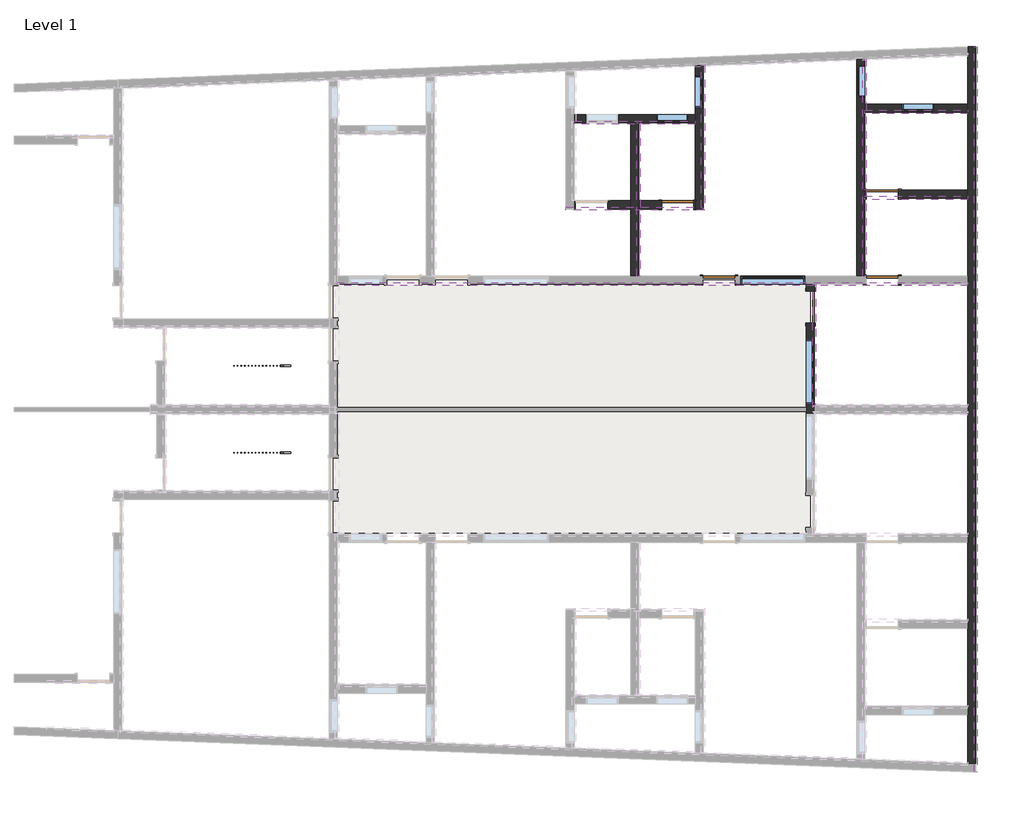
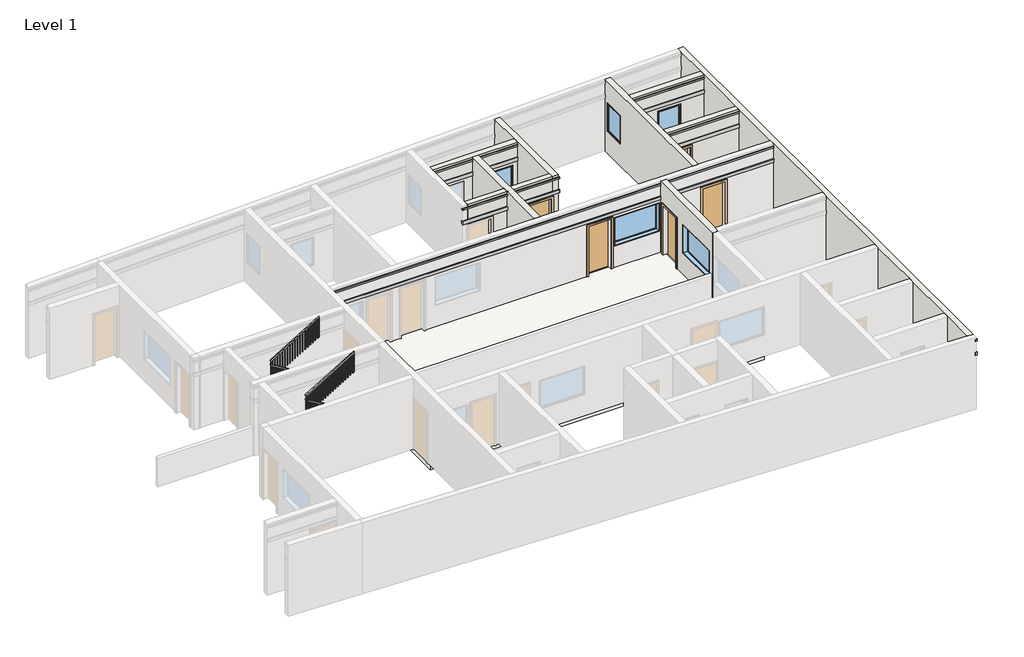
# One storey, part 5 of 5: 20 proxies, 9 walls, 6 windows, 5 doors, 2 railings, 1 slab.
"""IFC4 building model written with IfcOpenShell, lengths in millimetres."""

from ifc_helpers import new_model, si_unit, frame, origin, place, context, project, spatial, polyline, outline, extrude, faceted_brep, transform, mapped, element, save
from components import door_0ca8825f, door_a90ba1ad, handrail_rectangular_be6d6456, handrail_rectangular_08b6a308, window_c1f32544, fixed_6_x4_abaca003

model = new_model("IFC4")

# Units and contexts
model_context = context("Model", 3, world=origin())
ifc_project = project(units=[si_unit("LENGTHUNIT", "METRE", prefix="MILLI")], contexts=[model_context])

# Site, building, storey
site = spatial("IfcSite", under=ifc_project)
building = spatial("IfcBuilding", under=site)
storey = spatial("IfcBuildingStorey", under=building, Name="Level 1", Elevation=0.0)

# Proxies
placement = place(None, origin())
element("IfcBuildingElementProxy", 1, Name="Reveals", at=placement, inside=storey, context=model_context, shape_type="SweptSolid", body=[
    extrude(outline(polyline([(10312.4857699, -6819.3615033), (10220.4107699, -6815.7808089), (10220.4107699, 13730.0286536), (10312.4857699, 13733.6093481), (10312.4857699, -6819.3615033)])), frame((0.0, 0.0, 2895.6), z_axis=(0.0, 0.0, 1.0), x_axis=(1.0, 0.0, 0.0)), (0.0, 0.0, 1.0), 67.7333333),
])
element("IfcBuildingElementProxy", 2, Name="Reveals", at=placement, inside=storey, context=model_context, shape_type="SweptSolid", body=[
    extrude(outline(polyline([(-7813.5892301, 6959.1489224), (-7813.5892301, 7051.2239224), (10042.6107699, 7051.2239224), (10042.6107699, 6959.1489224), (-7813.5892301, 6959.1489224)])), frame((0.0, 0.0, 2895.6), z_axis=(0.0, 0.0, 1.0), x_axis=(1.0, 0.0, 0.0)), (0.0, 0.0, 1.0), 67.7333333),
])
element("IfcBuildingElementProxy", 3, Name="Reveals", at=placement, inside=storey, context=model_context, shape_type="SweptSolid", body=[
    extrude(outline(polyline([(762.0857699, 7229.0239224), (670.0107699, 7229.0239224), (670.0107699, 11572.4239224), (762.0857699, 11572.4239224), (762.0857699, 7229.0239224)])), frame((0.0, 0.0, 2895.6), z_axis=(0.0, 0.0, 1.0), x_axis=(1.0, 0.0, 0.0)), (0.0, 0.0, 1.0), 67.7333333),
])
element("IfcBuildingElementProxy", 4, Name="Reveals", at=placement, inside=storey, context=model_context, shape_type="SweptSolid", body=[
    extrude(outline(polyline([(2590.8857699, 9092.7489224), (2498.8107699, 9184.8239224), (2498.8107699, 13202.9469689), (2590.8857699, 13202.9469689), (2590.8857699, 9092.7489224)])), frame((0.0, 0.0, 2895.6), z_axis=(0.0, 0.0, 1.0), x_axis=(1.0, 0.0, 0.0)), (0.0, 0.0, 1.0), 67.7333333),
])
element("IfcBuildingElementProxy", 5, Name="Reveals", at=placement, inside=storey, context=model_context, shape_type="SweptSolid", body=[
    extrude(outline(polyline([(7162.8857699, 7229.0239224), (7070.8107699, 7229.0239224), (7070.8107699, 13380.7469689), (7162.8857699, 13380.7469689), (7162.8857699, 7229.0239224)])), frame((0.0, 0.0, 2895.6), z_axis=(0.0, 0.0, 1.0), x_axis=(1.0, 0.0, 0.0)), (0.0, 0.0, 1.0), 67.7333333),
])
element("IfcBuildingElementProxy", 6, Name="Reveals", at=placement, inside=storey, context=model_context, shape_type="SweptSolid", body=[
    extrude(outline(polyline([(5740.4857699, 3612.6989224), (5648.4107699, 3520.6239224), (5648.4107699, 7000.4239224), (5740.4857699, 7000.4239224), (5740.4857699, 3612.6989224)])), frame((0.0, 0.0, 2895.6), z_axis=(0.0, 0.0, 1.0), x_axis=(1.0, 0.0, 0.0)), (0.0, 0.0, 1.0), 67.7333333),
])
element("IfcBuildingElementProxy", 7, Name="Reveals", at=placement, inside=storey, context=model_context, shape_type="SweptSolid", body=[
    extrude(outline(polyline([(-1107.9892301, 11531.1489224), (-1107.9892301, 11623.2239224), (2321.0107699, 11623.2239224), (2321.0107699, 11531.1489224), (-1107.9892301, 11531.1489224)])), frame((0.0, 0.0, 2895.6), z_axis=(0.0, 0.0, 1.0), x_axis=(1.0, 0.0, 0.0)), (0.0, 0.0, 1.0), 67.7333333),
])
element("IfcBuildingElementProxy", 8, Name="Reveals", at=placement, inside=storey, context=model_context, shape_type="SweptSolid", body=[
    extrude(outline(polyline([(7121.6107699, 9397.5489224), (7121.6107699, 9489.6239224), (10042.6107699, 9489.6239224), (10042.6107699, 9397.5489224), (7121.6107699, 9397.5489224)])), frame((0.0, 0.0, 2895.6), z_axis=(0.0, 0.0, 1.0), x_axis=(1.0, 0.0, 0.0)), (0.0, 0.0, 1.0), 67.7333333),
])
element("IfcBuildingElementProxy", 9, Name="Reveals", at=placement, inside=storey, context=model_context, shape_type="SweptSolid", body=[
    extrude(outline(polyline([(7121.6107699, 11835.9489224), (7121.6107699, 11928.0239224), (10042.6107699, 11928.0239224), (10042.6107699, 11835.9489224), (7121.6107699, 11835.9489224)])), frame((0.0, 0.0, 2895.6), z_axis=(0.0, 0.0, 1.0), x_axis=(1.0, 0.0, 0.0)), (0.0, 0.0, 1.0), 67.7333333),
])
element("IfcBuildingElementProxy", 10, Name="Reveals", at=placement, inside=storey, context=model_context, shape_type="SweptSolid", body=[
    extrude(outline(polyline([(-1336.5892301, 9092.7489224), (-1336.5892301, 9184.8239224), (2498.8107699, 9184.8239224), (2590.8857699, 9092.7489224), (-1336.5892301, 9092.7489224)])), frame((0.0, 0.0, 2895.6), z_axis=(0.0, 0.0, 1.0), x_axis=(1.0, 0.0, 0.0)), (0.0, 0.0, 1.0), 67.7333333),
])
element("IfcBuildingElementProxy", 11, Name="Reveals", at=placement, inside=storey, context=model_context, shape_type="SweptSolid", body=[
    extrude(outline(polyline([(10312.4857699, -6819.3615033), (10220.4107699, -6815.7808089), (10220.4107699, 13730.0286536), (10312.4857699, 13733.6093481), (10312.4857699, -6819.3615033)])), frame((0.0, 0.0, 2286.0), z_axis=(0.0, 0.0, 1.0), x_axis=(1.0, 0.0, 0.0)), (0.0, 0.0, 1.0), 135.4666667),
])
element("IfcBuildingElementProxy", 12, Name="Reveals", at=placement, inside=storey, context=model_context, shape_type="SweptSolid", body=[
    extrude(outline(polyline([(-7813.5892301, 6959.1489224), (-7813.5892301, 7051.2239224), (10042.6107699, 7051.2239224), (10042.6107699, 6959.1489224), (-7813.5892301, 6959.1489224)])), frame((0.0, 0.0, 2286.0), z_axis=(0.0, 0.0, 1.0), x_axis=(1.0, 0.0, 0.0)), (0.0, 0.0, 1.0), 135.4666667),
])
element("IfcBuildingElementProxy", 13, Name="Reveals", at=placement, inside=storey, context=model_context, shape_type="SweptSolid", body=[
    extrude(outline(polyline([(762.0857699, 7229.0239224), (670.0107699, 7229.0239224), (670.0107699, 11572.4239224), (762.0857699, 11572.4239224), (762.0857699, 7229.0239224)])), frame((0.0, 0.0, 2286.0), z_axis=(0.0, 0.0, 1.0), x_axis=(1.0, 0.0, 0.0)), (0.0, 0.0, 1.0), 135.4666667),
])
element("IfcBuildingElementProxy", 14, Name="Reveals", at=placement, inside=storey, context=model_context, shape_type="SweptSolid", body=[
    extrude(outline(polyline([(2590.8857699, 9092.7489224), (2498.8107699, 9184.8239224), (2498.8107699, 13202.9469689), (2590.8857699, 13202.9469689), (2590.8857699, 9092.7489224)])), frame((0.0, 0.0, 2286.0), z_axis=(0.0, 0.0, 1.0), x_axis=(1.0, 0.0, 0.0)), (0.0, 0.0, 1.0), 135.4666667),
])
element("IfcBuildingElementProxy", 15, Name="Reveals", at=placement, inside=storey, context=model_context, shape_type="SweptSolid", body=[
    extrude(outline(polyline([(7162.8857699, 7229.0239224), (7070.8107699, 7229.0239224), (7070.8107699, 13380.7469689), (7162.8857699, 13380.7469689), (7162.8857699, 7229.0239224)])), frame((0.0, 0.0, 2286.0), z_axis=(0.0, 0.0, 1.0), x_axis=(1.0, 0.0, 0.0)), (0.0, 0.0, 1.0), 135.4666667),
])
element("IfcBuildingElementProxy", 16, Name="Reveals", at=placement, inside=storey, context=model_context, shape_type="SweptSolid", body=[
    extrude(outline(polyline([(5740.4857699, 3612.6989224), (5648.4107699, 3520.6239224), (5648.4107699, 7000.4239224), (5740.4857699, 7000.4239224), (5740.4857699, 3612.6989224)])), frame((0.0, 0.0, 2286.0), z_axis=(0.0, 0.0, 1.0), x_axis=(1.0, 0.0, 0.0)), (0.0, 0.0, 1.0), 135.4666667),
])
element("IfcBuildingElementProxy", 17, Name="Reveals", at=placement, inside=storey, context=model_context, shape_type="SweptSolid", body=[
    extrude(outline(polyline([(-1107.9892301, 11531.1489224), (-1107.9892301, 11623.2239224), (2321.0107699, 11623.2239224), (2321.0107699, 11531.1489224), (-1107.9892301, 11531.1489224)])), frame((0.0, 0.0, 2286.0), z_axis=(0.0, 0.0, 1.0), x_axis=(1.0, 0.0, 0.0)), (0.0, 0.0, 1.0), 135.4666667),
])
element("IfcBuildingElementProxy", 18, Name="Reveals", at=placement, inside=storey, context=model_context, shape_type="SweptSolid", body=[
    extrude(outline(polyline([(7121.6107699, 9397.5489224), (7121.6107699, 9489.6239224), (10042.6107699, 9489.6239224), (10042.6107699, 9397.5489224), (7121.6107699, 9397.5489224)])), frame((0.0, 0.0, 2286.0), z_axis=(0.0, 0.0, 1.0), x_axis=(1.0, 0.0, 0.0)), (0.0, 0.0, 1.0), 135.4666667),
])
element("IfcBuildingElementProxy", 19, Name="Reveals", at=placement, inside=storey, context=model_context, shape_type="SweptSolid", body=[
    extrude(outline(polyline([(7121.6107699, 11835.9489224), (7121.6107699, 11928.0239224), (10042.6107699, 11928.0239224), (10042.6107699, 11835.9489224), (7121.6107699, 11835.9489224)])), frame((0.0, 0.0, 2286.0), z_axis=(0.0, 0.0, 1.0), x_axis=(1.0, 0.0, 0.0)), (0.0, 0.0, 1.0), 135.4666667),
])
element("IfcBuildingElementProxy", 20, Name="Reveals", at=placement, inside=storey, context=model_context, shape_type="SweptSolid", body=[
    extrude(outline(polyline([(-1336.5892301, 9092.7489224), (-1336.5892301, 9184.8239224), (2498.8107699, 9184.8239224), (2590.8857699, 9092.7489224), (-1336.5892301, 9092.7489224)])), frame((0.0, 0.0, 2286.0), z_axis=(0.0, 0.0, 1.0), x_axis=(1.0, 0.0, 0.0)), (0.0, 0.0, 1.0), 135.4666667),
])

# Doors
door_shape = door_0ca8825f(model_context)
element("IfcDoor", 21, ObjectType="Single-Flush : 36\" x 84\"", at=placement, inside=storey, context=model_context, shape_type="MappedRepresentation", body=[
    mapped(door_shape, transform((1825.7107699, 9248.3239224, 0.0), x_axis=(1.0, 0.0, 0.0), y_axis=(0.0, 1.0, 0.0), z_axis=(0.0, 0.0, 1.0))),
])
door_2_shape = door_a90ba1ad(model_context)
element("IfcDoor", 22, ObjectType="Single-Flush : 36\" x 84\"", at=placement, inside=storey, context=model_context, shape_type="MappedRepresentation", body=[
    mapped(door_2_shape, transform((7616.9107699, 7114.7239224, 0.0), x_axis=(-1.0, 0.0, 0.0), y_axis=(0.0, -1.0, 0.0), z_axis=(0.0, 0.0, 1.0))),
])
element("IfcDoor", 23, ObjectType="Single-Flush : 36\" x 84\"", at=placement, inside=storey, context=model_context, shape_type="MappedRepresentation", body=[
    mapped(door_2_shape, transform((5584.9107699, 6352.7239224, 0.0), x_axis=(0.0, 1.0, 0.0), y_axis=(-1.0, 0.0, 0.0), z_axis=(0.0, 0.0, 1.0))),
])
element("IfcDoor", 24, ObjectType="Single-Flush : 36\" x 84\"", at=placement, inside=storey, context=model_context, shape_type="MappedRepresentation", body=[
    mapped(door_2_shape, transform((2994.1107699, 7114.7239224, 0.0), x_axis=(-1.0, 0.0, 0.0), y_axis=(0.0, -1.0, 0.0), z_axis=(0.0, 0.0, 1.0))),
])
element("IfcDoor", 25, ObjectType="Single-Flush : 36\" x 84\"", at=placement, inside=storey, context=model_context, shape_type="MappedRepresentation", body=[
    mapped(door_2_shape, transform((7616.9107699, 9553.1239224, 0.0), x_axis=(-1.0, 0.0, 0.0), y_axis=(0.0, -1.0, 0.0), z_axis=(0.0, 0.0, 1.0))),
])

# Railings
handrail_rectangular_shape = handrail_rectangular_be6d6456(model_context)
element("IfcRailing", 26, ObjectType="Handrail - Rectangular", at=placement, inside=storey, context=model_context, shape_type="MappedRepresentation", body=[
    mapped(handrail_rectangular_shape, transform((0.0, 0.0, 0.0), x_axis=(1.0, 0.0, 0.0), y_axis=(0.0, 1.0, 0.0), z_axis=(0.0, 0.0, 1.0))),
])
handrail_rectangular_2_shape = handrail_rectangular_08b6a308(model_context)
element("IfcRailing", 27, ObjectType="Handrail - Rectangular", at=placement, inside=storey, context=model_context, shape_type="MappedRepresentation", body=[
    mapped(handrail_rectangular_2_shape, transform((0.0, 0.0, 0.0), x_axis=(1.0, 0.0, 0.0), y_axis=(0.0, 1.0, 0.0), z_axis=(0.0, 0.0, 1.0))),
])

# Slab
element("IfcSlab", 28, ObjectType="Generic - 12\"", at=placement, inside=storey, context=model_context, shape_type="SweptSolid", body=[
    extrude(outline(polyline([(-7927.8892301, 7114.7239224), (5584.9107699, 7114.7239224), (5584.9107699, -48.0760776), (-7927.8892301, -48.0760776), (-7927.8892301, 7114.7239224)])), frame((0.0, 0.0, -355.6), z_axis=(0.0, 0.0, 1.0), x_axis=(1.0, 0.0, 0.0)), (0.0, 0.0, 1.0), 355.6),
])

# Walls
element("IfcWall", 29, ObjectType="9\" thick brick wall", at=placement, inside=storey, context=model_context, shape_type="Brep", body=[
    faceted_brep([(10271.2107699, -6588.9835686, 0.0), (10271.2107699, 13732.0042092, 0.0), (10271.2107699, 13732.0042092, 2286.0), (10271.2107699, -6588.9835686, 2286.0), (10271.2107699, 13732.0042092, 3048.0), (10271.2107699, -6588.9835686, 3048.0), (10271.2107699, -6588.9835686, 2963.3333333), (10271.2107699, 13732.0042092, 2963.3333333), (10271.2107699, 13732.0042092, 2895.6), (10271.2107699, -6588.9835686, 2895.6), (10271.2107699, -6588.9835686, 2421.4666667), (10271.2107699, 13732.0042092, 2421.4666667), (10042.6107699, 13723.1142092, 0.0), (10042.6107699, 13494.3414134, 0.0), (10042.6107699, 12105.8239224, 0.0), (10042.6107699, 11877.2239224, 0.0), (10042.6107699, 9667.4239224, 0.0), (10042.6107699, 9438.8239224, 0.0), (10042.6107699, 7229.0239224, 0.0), (10042.6107699, 7000.4239224, 0.0), (10042.6107699, 3571.4239224, 0.0), (10042.6107699, 3342.8239224, 0.0), (10042.6107699, -86.1760776, 0.0), (10042.6107699, -314.7760776, 0.0), (10042.6107699, -2524.5760776, 0.0), (10042.6107699, -2753.1760776, 0.0), (10042.6107699, -4962.9760776, 0.0), (10042.6107699, -5191.5760776, 0.0), (10042.6107699, -6580.0935686, 0.0), (10042.6107699, -6580.0935686, 2286.0), (10042.6107699, -6580.0935686, 2421.4666667), (10042.6107699, -6580.0935686, 2895.6), (10042.6107699, -6580.0935686, 2963.3333333), (10042.6107699, -6580.0935686, 3048.0), (10042.6107699, -5191.5760776, 3048.0), (10042.6107699, -4962.9760776, 3048.0), (10042.6107699, -2753.1760776, 3048.0), (10042.6107699, -2524.5760776, 3048.0), (10042.6107699, -314.7760776, 3048.0), (10042.6107699, -86.1760776, 3048.0), (10042.6107699, 3342.8239224, 3048.0), (10042.6107699, 3571.4239224, 3048.0), (10042.6107699, 7000.4239224, 3048.0), (10042.6107699, 7229.0239224, 3048.0), (10042.6107699, 9438.8239224, 3048.0), (10042.6107699, 9667.4239224, 3048.0), (10042.6107699, 11877.2239224, 3048.0), (10042.6107699, 12105.8239224, 3048.0), (10042.6107699, 13494.3414134, 3048.0), (10042.6107699, 13723.1142092, 3048.0), (10220.4107699, 13730.0286536, 2963.3333333), (10220.4107699, 13730.0286536, 2895.6), (10220.4107699, 13730.0286536, 2421.4666667), (10220.4107699, 13730.0286536, 2286.0), (10220.4107699, -6587.0080131, 2286.0), (10220.4107699, -6587.0080131, 2421.4666667), (10220.4107699, -6587.0080131, 2895.6), (10220.4107699, -6587.0080131, 2963.3333333)], [[[0, 1, 2, 3]], [[4, 5, 6, 7]], [[8, 9, 10, 11]], [[12, 13, 14, 15, 16, 17, 18, 19, 20, 21, 22, 23, 24, 25, 26, 27, 28, 29, 30, 31, 32, 33, 34, 35, 36, 37, 38, 39, 40, 41, 42, 43, 44, 45, 46, 47, 48, 49]], [[1, 0, 28, 27, 26, 25, 24, 23, 22, 21, 20, 19, 18, 17, 16, 15, 14, 13, 12]], [[5, 4, 49, 48, 47, 46, 45, 44, 43, 42, 41, 40, 39, 38, 37, 36, 35, 34, 33]], [[1, 12, 49, 4, 7, 50, 51, 8, 11, 52, 53, 2]], [[5, 33, 32, 31, 30, 29, 28, 0, 3, 54, 55, 10, 9, 56, 57, 6]], [[50, 57, 56, 51]], [[51, 56, 9, 8]], [[57, 50, 7, 6]], [[52, 55, 54, 53]], [[53, 54, 3, 2]], [[55, 52, 11, 10]]]),
])
element("IfcWall", 30, ObjectType="9\" thick brick wall", at=placement, inside=storey, context=model_context, shape_type="SweptSolid", body=[
    extrude(outline(polyline([(3048.0, 720.8107699), (3048.0, 492.2107699), (0.0, 492.2107699), (0.0, 720.8107699), (2286.0, 720.8107699), (2286.0, 670.0107699), (2421.4666667, 670.0107699), (2421.4666667, 720.8107699), (2895.6, 720.8107699), (2895.6, 670.0107699), (2963.3333333, 670.0107699), (2963.3333333, 720.8107699), (3048.0, 720.8107699)])), frame((0.0, 7229.0239224, 0.0), z_axis=(0.0, 1.0, 0.0), x_axis=(0.0, 0.0, 1.0)), (0.0, 0.0, 1.0), 4343.4),
])
element("IfcWall", 31, ObjectType="9\" thick brick wall", at=placement, inside=storey, context=model_context, shape_type="Brep", body=[
    faceted_brep([(2549.6107699, 9134.0239224, 0.0), (2549.6107699, 13202.9469689, 0.0), (2549.6107699, 13202.9469689, 2286.0), (2549.6107699, 9134.0239224, 2286.0), (2549.6107699, 11991.5239224, 914.4), (2549.6107699, 11991.5239224, 2133.6), (2549.6107699, 12905.9239224, 2133.6), (2549.6107699, 12905.9239224, 914.4), (2549.6107699, 13202.9469689, 3048.0), (2549.6107699, 9134.0239224, 3048.0), (2549.6107699, 9134.0239224, 2963.3333333), (2549.6107699, 13202.9469689, 2963.3333333), (2549.6107699, 13202.9469689, 2895.6), (2549.6107699, 9134.0239224, 2895.6), (2549.6107699, 9134.0239224, 2421.4666667), (2549.6107699, 13202.9469689, 2421.4666667), (2321.0107699, 13194.0569689, 0.0), (2321.0107699, 11801.0239224, 0.0), (2321.0107699, 11572.4239224, 0.0), (2321.0107699, 9362.6239224, 0.0), (2321.0107699, 9134.0239224, 0.0), (2321.0107699, 9134.0239224, 2286.0), (2321.0107699, 9184.8239224, 2286.0), (2321.0107699, 9184.8239224, 2421.4666667), (2321.0107699, 9134.0239224, 2421.4666667), (2321.0107699, 9134.0239224, 2895.6), (2321.0107699, 9184.8239224, 2895.6), (2321.0107699, 9184.8239224, 2963.3333333), (2321.0107699, 9134.0239224, 2963.3333333), (2321.0107699, 9134.0239224, 3048.0), (2321.0107699, 9362.6239224, 3048.0), (2321.0107699, 11572.4239224, 3048.0), (2321.0107699, 11801.0239224, 3048.0), (2321.0107699, 13194.0569689, 3048.0), (2321.0107699, 11991.5239224, 2133.6), (2321.0107699, 11991.5239224, 914.4), (2321.0107699, 12905.9239224, 914.4), (2321.0107699, 12905.9239224, 2133.6), (2498.8107699, 13200.9714134, 2963.3333333), (2498.8107699, 13200.9714134, 2895.6), (2498.8107699, 13200.9714134, 2421.4666667), (2498.8107699, 13200.9714134, 2286.0), (2498.8107699, 9184.8239224, 2895.6), (2498.8107699, 9184.8239224, 2963.3333333), (2498.8107699, 9184.8239224, 2286.0), (2498.8107699, 9184.8239224, 2421.4666667)], [[[0, 1, 2, 3], [4, 5, 6, 7]], [[8, 9, 10, 11]], [[12, 13, 14, 15]], [[16, 17, 18, 19, 20, 21, 22, 23, 24, 25, 26, 27, 28, 29, 30, 31, 32, 33], [34, 35, 36, 37]], [[1, 0, 20, 19, 18, 17, 16]], [[9, 8, 33, 32, 31, 30, 29]], [[9, 29, 28, 10]], [[20, 0, 3, 21]], [[13, 25, 24, 14]], [[1, 16, 33, 8, 11, 38, 39, 12, 15, 40, 41, 2]], [[35, 34, 5, 4]], [[36, 35, 4, 7]], [[37, 36, 7, 6]], [[34, 37, 6, 5]], [[42, 43, 27, 26]], [[39, 42, 26, 25, 13, 12]], [[27, 43, 38, 11, 10, 28]], [[43, 42, 39, 38]], [[44, 45, 23, 22]], [[41, 44, 22, 21, 3, 2]], [[23, 45, 40, 15, 14, 24]], [[45, 44, 41, 40]]]),
])
element("IfcWall", 32, ObjectType="9\" thick brick wall", at=placement, inside=storey, context=model_context, shape_type="Brep", body=[
    faceted_brep([(7121.6107699, 7229.0239224, 0.0), (7121.6107699, 9438.8239224, 0.0), (7121.6107699, 9667.4239224, 0.0), (7121.6107699, 11877.2239224, 0.0), (7121.6107699, 12105.8239224, 0.0), (7121.6107699, 13380.7469689, 0.0), (7121.6107699, 13380.7469689, 2286.0), (7121.6107699, 11928.0239224, 2286.0), (7121.6107699, 11877.2239224, 2286.0), (7121.6107699, 7229.0239224, 2286.0), (7121.6107699, 13210.7239224, 2133.6), (7121.6107699, 13210.7239224, 914.4), (7121.6107699, 12296.3239224, 914.4), (7121.6107699, 12296.3239224, 2133.6), (7121.6107699, 13380.7469689, 3048.0), (7121.6107699, 12105.8239224, 3048.0), (7121.6107699, 11877.2239224, 3048.0), (7121.6107699, 9667.4239224, 3048.0), (7121.6107699, 9438.8239224, 3048.0), (7121.6107699, 7229.0239224, 3048.0), (7121.6107699, 7229.0239224, 2963.3333333), (7121.6107699, 11877.2239224, 2963.3333333), (7121.6107699, 11928.0239224, 2963.3333333), (7121.6107699, 13380.7469689, 2963.3333333), (7121.6107699, 13380.7469689, 2895.6), (7121.6107699, 11928.0239224, 2895.6), (7121.6107699, 11877.2239224, 2895.6), (7121.6107699, 7229.0239224, 2895.6), (7121.6107699, 7229.0239224, 2421.4666667), (7121.6107699, 11877.2239224, 2421.4666667), (7121.6107699, 11928.0239224, 2421.4666667), (7121.6107699, 13380.7469689, 2421.4666667), (6893.0107699, 13371.8569689, 0.0), (6893.0107699, 7229.0239224, 0.0), (6893.0107699, 7229.0239224, 3048.0), (6893.0107699, 13371.8569689, 3048.0), (6893.0107699, 13210.7239224, 914.4), (6893.0107699, 13210.7239224, 2133.6), (6893.0107699, 12296.3239224, 2133.6), (6893.0107699, 12296.3239224, 914.4), (7070.8107699, 7229.0239224, 2286.0), (7070.8107699, 7229.0239224, 2421.4666667), (7070.8107699, 7229.0239224, 2895.6), (7070.8107699, 7229.0239224, 2963.3333333), (7070.8107699, 13378.7714134, 2963.3333333), (7070.8107699, 13378.7714134, 2895.6), (7070.8107699, 13378.7714134, 2421.4666667), (7070.8107699, 13378.7714134, 2286.0)], [[[0, 1, 2, 3, 4, 5, 6, 7, 8, 9], [10, 11, 12, 13]], [[14, 15, 16, 17, 18, 19, 20, 21, 22, 23]], [[24, 25, 26, 27, 28, 29, 30, 31]], [[32, 33, 34, 35], [36, 37, 38, 39]], [[5, 4, 3, 2, 1, 0, 33, 32]], [[19, 18, 17, 16, 15, 14, 35, 34]], [[19, 34, 33, 0, 9, 40, 41, 28, 27, 42, 43, 20]], [[5, 32, 35, 14, 23, 44, 45, 24, 31, 46, 47, 6]], [[11, 10, 37, 36]], [[12, 11, 36, 39]], [[13, 12, 39, 38]], [[10, 13, 38, 37]], [[44, 43, 42, 45]], [[45, 42, 27, 26, 25, 24]], [[43, 44, 23, 22, 21, 20]], [[46, 41, 40, 47]], [[47, 40, 9, 8, 7, 6]], [[41, 46, 31, 30, 29, 28]]]),
])
element("IfcWall", 33, ObjectType="9\" thick brick wall", at=placement, inside=storey, context=model_context, shape_type="Brep", body=[
    faceted_brep([(5699.2107699, 7000.4239224, 3048.0), (5699.2107699, 3571.4239224, 3048.0), (5699.2107699, 3342.8239224, 3048.0), (5699.2107699, 3342.8239224, 2963.3333333), (5699.2107699, 3393.6239224, 2963.3333333), (5699.2107699, 3393.6239224, 2895.6), (5699.2107699, 3342.8239224, 2895.6), (5699.2107699, 3342.8239224, 2421.4666667), (5699.2107699, 3393.6239224, 2421.4666667), (5699.2107699, 3393.6239224, 2286.0), (5699.2107699, 3342.8239224, 2286.0), (5699.2107699, 3342.8239224, 0.0), (5699.2107699, 3571.4239224, 0.0), (5699.2107699, 5895.5239224, 0.0), (5699.2107699, 5895.5239224, 2133.6), (5699.2107699, 6809.9239224, 2133.6), (5699.2107699, 6809.9239224, 0.0), (5699.2107699, 7000.4239224, 0.0), (5699.2107699, 7000.4239224, 2286.0), (5699.2107699, 3571.4239224, 2286.0), (5699.2107699, 3520.6239224, 2286.0), (5699.2107699, 3520.6239224, 2421.4666667), (5699.2107699, 3571.4239224, 2421.4666667), (5699.2107699, 7000.4239224, 2421.4666667), (5699.2107699, 7000.4239224, 2895.6), (5699.2107699, 3571.4239224, 2895.6), (5699.2107699, 3520.6239224, 2895.6), (5699.2107699, 3520.6239224, 2963.3333333), (5699.2107699, 3571.4239224, 2963.3333333), (5699.2107699, 7000.4239224, 2963.3333333), (5699.2107699, 3609.5239224, 914.4), (5699.2107699, 3609.5239224, 2133.6), (5699.2107699, 5438.3239224, 2133.6), (5699.2107699, 5438.3239224, 914.4), (5470.6107699, 3342.8239224, 3048.0), (5470.6107699, 7000.4239224, 3048.0), (5470.6107699, 7000.4239224, 0.0), (5470.6107699, 6809.9239224, 0.0), (5470.6107699, 6809.9239224, 2133.6), (5470.6107699, 5895.5239224, 2133.6), (5470.6107699, 5895.5239224, 0.0), (5470.6107699, 3514.2739224, 0.0), (5470.6107699, 3399.9739224, 0.0), (5470.6107699, 3342.8239224, 0.0), (5470.6107699, 3609.5239224, 2133.6), (5470.6107699, 3609.5239224, 914.4), (5470.6107699, 5438.3239224, 914.4), (5470.6107699, 5438.3239224, 2133.6), (5648.4107699, 3342.8239224, 2286.0), (5648.4107699, 3342.8239224, 2421.4666667), (5648.4107699, 3342.8239224, 2895.6), (5648.4107699, 3342.8239224, 2963.3333333), (5648.4107699, 7000.4239224, 2963.3333333), (5648.4107699, 7000.4239224, 2895.6), (5648.4107699, 7000.4239224, 2421.4666667), (5648.4107699, 7000.4239224, 2286.0), (5648.4107699, 3520.6239224, 2895.6), (5648.4107699, 3520.6239224, 2963.3333333), (5648.4107699, 3393.6239224, 2963.3333333), (5648.4107699, 3393.6239224, 2895.6), (5648.4107699, 3520.6239224, 2286.0), (5648.4107699, 3520.6239224, 2421.4666667), (5648.4107699, 3393.6239224, 2421.4666667), (5648.4107699, 3393.6239224, 2286.0)], [[[0, 1, 2, 3, 4, 5, 6, 7, 8, 9, 10, 11, 12, 13, 14, 15, 16, 17, 18, 19, 20, 21, 22, 23, 24, 25, 26, 27, 28, 29], [30, 31, 32, 33]], [[34, 35, 36, 37, 38, 39, 40, 41, 42, 43], [44, 45, 46, 47]], [[11, 43, 42, 41, 40, 13, 12]], [[36, 17, 16, 37]], [[2, 1, 0, 35, 34]], [[43, 11, 10, 48, 49, 7, 6, 50, 51, 3, 2, 34]], [[17, 36, 35, 0, 29, 52, 53, 24, 23, 54, 55, 18]], [[38, 37, 16, 15]], [[39, 38, 15, 14]], [[40, 39, 14, 13]], [[45, 44, 31, 30]], [[46, 45, 30, 33]], [[47, 46, 33, 32]], [[44, 47, 32, 31]], [[56, 57, 27, 26]], [[53, 56, 26, 25, 24]], [[57, 52, 29, 28, 27]], [[57, 56, 53, 52]], [[51, 58, 4, 3]], [[59, 50, 6, 5]], [[50, 59, 58, 51]], [[59, 5, 4, 58]], [[60, 61, 21, 20]], [[55, 60, 20, 19, 18]], [[61, 54, 23, 22, 21]], [[61, 60, 55, 54]], [[49, 62, 8, 7]], [[63, 48, 10, 9]], [[62, 49, 48, 63]], [[8, 62, 63, 9]]]),
])
element("IfcWall", 34, ObjectType="9\" thick brick wall", at=placement, inside=storey, context=model_context, shape_type="Brep", body=[
    faceted_brep([(-1107.9892301, 11572.4239224, 0.0), (492.2107699, 11572.4239224, 0.0), (720.8107699, 11572.4239224, 0.0), (2321.0107699, 11572.4239224, 0.0), (2321.0107699, 11572.4239224, 2286.0), (720.8107699, 11572.4239224, 2286.0), (670.0107699, 11572.4239224, 2286.0), (-1107.9892301, 11572.4239224, 2286.0), (1216.1107699, 11572.4239224, 914.4), (1216.1107699, 11572.4239224, 2133.6), (2130.5107699, 11572.4239224, 2133.6), (2130.5107699, 11572.4239224, 914.4), (-765.0892301, 11572.4239224, 914.4), (-765.0892301, 11572.4239224, 2133.6), (149.3107699, 11572.4239224, 2133.6), (149.3107699, 11572.4239224, 914.4), (2321.0107699, 11572.4239224, 3048.0), (720.8107699, 11572.4239224, 3048.0), (492.2107699, 11572.4239224, 3048.0), (-1107.9892301, 11572.4239224, 3048.0), (-1107.9892301, 11572.4239224, 2963.3333333), (670.0107699, 11572.4239224, 2963.3333333), (720.8107699, 11572.4239224, 2963.3333333), (2321.0107699, 11572.4239224, 2963.3333333), (2321.0107699, 11572.4239224, 2895.6), (720.8107699, 11572.4239224, 2895.6), (670.0107699, 11572.4239224, 2895.6), (-1107.9892301, 11572.4239224, 2895.6), (-1107.9892301, 11572.4239224, 2421.4666667), (670.0107699, 11572.4239224, 2421.4666667), (720.8107699, 11572.4239224, 2421.4666667), (2321.0107699, 11572.4239224, 2421.4666667), (2321.0107699, 11801.0239224, 0.0), (-1107.9892301, 11801.0239224, 0.0), (-1107.9892301, 11801.0239224, 3048.0), (2321.0107699, 11801.0239224, 3048.0), (1216.1107699, 11801.0239224, 2133.6), (1216.1107699, 11801.0239224, 914.4), (2130.5107699, 11801.0239224, 914.4), (2130.5107699, 11801.0239224, 2133.6), (-765.0892301, 11801.0239224, 2133.6), (-765.0892301, 11801.0239224, 914.4), (149.3107699, 11801.0239224, 914.4), (149.3107699, 11801.0239224, 2133.6), (-1107.9892301, 11623.2239224, 2286.0), (-1107.9892301, 11623.2239224, 2421.4666667), (-1107.9892301, 11623.2239224, 2895.6), (-1107.9892301, 11623.2239224, 2963.3333333), (2321.0107699, 11623.2239224, 2963.3333333), (2321.0107699, 11623.2239224, 2895.6), (2321.0107699, 11623.2239224, 2421.4666667), (2321.0107699, 11623.2239224, 2286.0)], [[[0, 1, 2, 3, 4, 5, 6, 7], [8, 9, 10, 11], [12, 13, 14, 15]], [[16, 17, 18, 19, 20, 21, 22, 23]], [[24, 25, 26, 27, 28, 29, 30, 31]], [[32, 33, 34, 35], [36, 37, 38, 39], [40, 41, 42, 43]], [[3, 2, 1, 0, 33, 32]], [[19, 18, 17, 16, 35, 34]], [[19, 34, 33, 0, 7, 44, 45, 28, 27, 46, 47, 20]], [[3, 32, 35, 16, 23, 48, 49, 24, 31, 50, 51, 4]], [[37, 36, 9, 8]], [[38, 37, 8, 11]], [[39, 38, 11, 10]], [[36, 39, 10, 9]], [[41, 40, 13, 12]], [[42, 41, 12, 15]], [[43, 42, 15, 14]], [[40, 43, 14, 13]], [[48, 47, 46, 49]], [[49, 46, 27, 26, 25, 24]], [[47, 48, 23, 22, 21, 20]], [[50, 45, 44, 51]], [[51, 44, 7, 6, 5, 4]], [[45, 50, 31, 30, 29, 28]]]),
])
element("IfcWall", 35, ObjectType="9\" thick brick wall", at=placement, inside=storey, context=model_context, shape_type="Brep", body=[
    faceted_brep([(10042.6107699, 9438.8239224, 3048.0), (7121.6107699, 9438.8239224, 3048.0), (7121.6107699, 9438.8239224, 2963.3333333), (10042.6107699, 9438.8239224, 2963.3333333), (7159.7107699, 9438.8239224, 0.0), (7159.7107699, 9438.8239224, 2133.6), (8074.1107699, 9438.8239224, 2133.6), (8074.1107699, 9438.8239224, 0.0), (10042.6107699, 9438.8239224, 0.0), (10042.6107699, 9438.8239224, 2286.0), (7121.6107699, 9438.8239224, 2286.0), (7121.6107699, 9438.8239224, 0.0), (10042.6107699, 9438.8239224, 2895.6), (7121.6107699, 9438.8239224, 2895.6), (7121.6107699, 9438.8239224, 2421.4666667), (10042.6107699, 9438.8239224, 2421.4666667), (7121.6107699, 9667.4239224, 3048.0), (10042.6107699, 9667.4239224, 3048.0), (10042.6107699, 9667.4239224, 0.0), (8074.1107699, 9667.4239224, 0.0), (8074.1107699, 9667.4239224, 2133.6), (7159.7107699, 9667.4239224, 2133.6), (7159.7107699, 9667.4239224, 0.0), (7121.6107699, 9667.4239224, 0.0), (10042.6107699, 9489.6239224, 2963.3333333), (10042.6107699, 9489.6239224, 2895.6), (10042.6107699, 9489.6239224, 2421.4666667), (10042.6107699, 9489.6239224, 2286.0), (7121.6107699, 9489.6239224, 2286.0), (7121.6107699, 9489.6239224, 2421.4666667), (7121.6107699, 9489.6239224, 2895.6), (7121.6107699, 9489.6239224, 2963.3333333)], [[[0, 1, 2, 3]], [[4, 5, 6, 7, 8, 9, 10, 11]], [[12, 13, 14, 15]], [[16, 17, 18, 19, 20, 21, 22, 23]], [[18, 8, 7, 19]], [[11, 23, 22, 4]], [[1, 0, 17, 16]], [[8, 18, 17, 0, 3, 24, 25, 12, 15, 26, 27, 9]], [[1, 16, 23, 11, 10, 28, 29, 14, 13, 30, 31, 2]], [[5, 4, 22, 21]], [[6, 5, 21, 20]], [[7, 6, 20, 19]], [[24, 31, 30, 25]], [[25, 30, 13, 12]], [[31, 24, 3, 2]], [[26, 29, 28, 27]], [[27, 28, 10, 9]], [[29, 26, 15, 14]]]),
])
element("IfcWall", 36, ObjectType="9\" thick brick wall", at=placement, inside=storey, context=model_context, shape_type="Brep", body=[
    faceted_brep([(7121.6107699, 11877.2239224, 0.0), (10042.6107699, 11877.2239224, 0.0), (10042.6107699, 11877.2239224, 2286.0), (7121.6107699, 11877.2239224, 2286.0), (8175.7107699, 11877.2239224, 914.4), (8175.7107699, 11877.2239224, 2133.6), (9090.1107699, 11877.2239224, 2133.6), (9090.1107699, 11877.2239224, 914.4), (10042.6107699, 11877.2239224, 3048.0), (7121.6107699, 11877.2239224, 3048.0), (7121.6107699, 11877.2239224, 2963.3333333), (10042.6107699, 11877.2239224, 2963.3333333), (10042.6107699, 11877.2239224, 2895.6), (7121.6107699, 11877.2239224, 2895.6), (7121.6107699, 11877.2239224, 2421.4666667), (10042.6107699, 11877.2239224, 2421.4666667), (10042.6107699, 12105.8239224, 0.0), (7121.6107699, 12105.8239224, 0.0), (7121.6107699, 12105.8239224, 3048.0), (10042.6107699, 12105.8239224, 3048.0), (8175.7107699, 12105.8239224, 2133.6), (8175.7107699, 12105.8239224, 914.4), (9090.1107699, 12105.8239224, 914.4), (9090.1107699, 12105.8239224, 2133.6), (10042.6107699, 11928.0239224, 2963.3333333), (10042.6107699, 11928.0239224, 2895.6), (10042.6107699, 11928.0239224, 2421.4666667), (10042.6107699, 11928.0239224, 2286.0), (7121.6107699, 11928.0239224, 2286.0), (7121.6107699, 11928.0239224, 2421.4666667), (7121.6107699, 11928.0239224, 2895.6), (7121.6107699, 11928.0239224, 2963.3333333)], [[[0, 1, 2, 3], [4, 5, 6, 7]], [[8, 9, 10, 11]], [[12, 13, 14, 15]], [[16, 17, 18, 19], [20, 21, 22, 23]], [[1, 0, 17, 16]], [[9, 8, 19, 18]], [[1, 16, 19, 8, 11, 24, 25, 12, 15, 26, 27, 2]], [[9, 18, 17, 0, 3, 28, 29, 14, 13, 30, 31, 10]], [[21, 20, 5, 4]], [[22, 21, 4, 7]], [[23, 22, 7, 6]], [[20, 23, 6, 5]], [[24, 31, 30, 25]], [[25, 30, 13, 12]], [[31, 24, 11, 10]], [[26, 29, 28, 27]], [[27, 28, 3, 2]], [[29, 26, 15, 14]]]),
])
element("IfcWall", 37, ObjectType="9\" thick brick wall", at=placement, inside=storey, context=model_context, shape_type="Brep", body=[
    faceted_brep([(2321.0107699, 9134.0239224, 3048.0), (-1107.9892301, 9134.0239224, 3048.0), (-1107.9892301, 9134.0239224, 2963.3333333), (2321.0107699, 9134.0239224, 2963.3333333), (-1069.8892301, 9134.0239224, 0.0), (-1069.8892301, 9134.0239224, 2133.6), (-155.4892301, 9134.0239224, 2133.6), (-155.4892301, 9134.0239224, 0.0), (1368.5107699, 9134.0239224, 0.0), (1368.5107699, 9134.0239224, 2133.6), (2282.9107699, 9134.0239224, 2133.6), (2282.9107699, 9134.0239224, 0.0), (2321.0107699, 9134.0239224, 0.0), (2321.0107699, 9134.0239224, 2286.0), (-1107.9892301, 9134.0239224, 2286.0), (-1107.9892301, 9134.0239224, 0.0), (2321.0107699, 9134.0239224, 2895.6), (-1107.9892301, 9134.0239224, 2895.6), (-1107.9892301, 9134.0239224, 2421.4666667), (2321.0107699, 9134.0239224, 2421.4666667), (-1107.9892301, 9362.6239224, 3048.0), (2321.0107699, 9362.6239224, 3048.0), (2321.0107699, 9362.6239224, 0.0), (2282.9107699, 9362.6239224, 0.0), (2282.9107699, 9362.6239224, 2133.6), (1368.5107699, 9362.6239224, 2133.6), (1368.5107699, 9362.6239224, 0.0), (-155.4892301, 9362.6239224, 0.0), (-155.4892301, 9362.6239224, 2133.6), (-1069.8892301, 9362.6239224, 2133.6), (-1069.8892301, 9362.6239224, 0.0), (-1107.9892301, 9362.6239224, 0.0), (-1107.9892301, 9362.6239224, 2286.0), (-1107.9892301, 9362.6239224, 2421.4666667), (-1107.9892301, 9362.6239224, 2895.6), (-1107.9892301, 9362.6239224, 2963.3333333), (-1107.9892301, 9184.8239224, 2286.0), (-1107.9892301, 9184.8239224, 2421.4666667), (-1107.9892301, 9184.8239224, 2895.6), (-1107.9892301, 9184.8239224, 2963.3333333), (2321.0107699, 9184.8239224, 2963.3333333), (2321.0107699, 9184.8239224, 2895.6), (2321.0107699, 9184.8239224, 2421.4666667), (2321.0107699, 9184.8239224, 2286.0)], [[[0, 1, 2, 3]], [[4, 5, 6, 7, 8, 9, 10, 11, 12, 13, 14, 15]], [[16, 17, 18, 19]], [[20, 21, 22, 23, 24, 25, 26, 27, 28, 29, 30, 31, 32, 33, 34, 35]], [[15, 31, 30, 4]], [[22, 12, 11, 23]], [[7, 27, 26, 8]], [[1, 0, 21, 20]], [[1, 20, 35, 34, 33, 32, 31, 15, 14, 36, 37, 18, 17, 38, 39, 2]], [[12, 22, 21, 0, 3, 40, 41, 16, 19, 42, 43, 13]], [[5, 4, 30, 29]], [[6, 5, 29, 28]], [[7, 6, 28, 27]], [[24, 23, 11, 10]], [[25, 24, 10, 9]], [[26, 25, 9, 8]], [[40, 39, 38, 41]], [[41, 38, 17, 16]], [[39, 40, 3, 2]], [[42, 37, 36, 43]], [[43, 36, 14, 13]], [[37, 42, 19, 18]]]),
])

# Windows
window_shape = window_c1f32544(model_context)
element("IfcWindow", 38, ObjectType="Fixed : 36\" x 48\"", at=placement, inside=storey, context=model_context, shape_type="MappedRepresentation", body=[
    mapped(window_shape, transform((2435.3107699, 12410.6239224, 0.0), x_axis=(0.0, -0.9999999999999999, 0.0), y_axis=(0.9999999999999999, 0.0, 0.0), z_axis=(0.0, 0.0, 1.0))),
])
element("IfcWindow", 39, ObjectType="Fixed : 36\" x 48\"", at=placement, inside=storey, context=model_context, shape_type="MappedRepresentation", body=[
    mapped(window_shape, transform((7007.3107699, 12791.6239224, 0.0), x_axis=(0.0, 0.9999999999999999, 0.0), y_axis=(-0.9999999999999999, 0.0, 0.0), z_axis=(0.0, 0.0, 1.0))),
])
element("IfcWindow", 40, ObjectType="Fixed : 36\" x 48\"", at=placement, inside=storey, context=model_context, shape_type="MappedRepresentation", body=[
    mapped(window_shape, transform((1635.2107699, 11686.7239224, 0.0), x_axis=(-1.0, 0.0, 0.0), y_axis=(0.0, -1.0, 0.0), z_axis=(0.0, 0.0, 1.0))),
])
element("IfcWindow", 41, ObjectType="Fixed : 36\" x 48\"", at=placement, inside=storey, context=model_context, shape_type="MappedRepresentation", body=[
    mapped(window_shape, transform((8594.8107699, 11991.5239224, 0.0), x_axis=(-0.9999999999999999, 0.0, 0.0), y_axis=(0.0, -0.9999999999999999, 0.0), z_axis=(0.0, 0.0, 1.0))),
])
fixed_6_x4_shape = fixed_6_x4_abaca003(model_context)
element("IfcWindow", 42, ObjectType="Fixed : 6'X4'", at=placement, inside=storey, context=model_context, shape_type="MappedRepresentation", body=[
    mapped(fixed_6_x4_shape, transform((4556.2107699, 7114.7239224, 0.0), x_axis=(1.0, 0.0, 0.0), y_axis=(0.0, 1.0, 0.0), z_axis=(0.0, 0.0, 1.0))),
])
element("IfcWindow", 43, ObjectType="Fixed : 6'X4'", at=placement, inside=storey, context=model_context, shape_type="MappedRepresentation", body=[
    mapped(fixed_6_x4_shape, transform((5584.9107699, 4485.8239224, 0.0), x_axis=(0.0, -1.0, 0.0), y_axis=(1.0, 0.0, 0.0), z_axis=(0.0, 0.0, 1.0))),
])

save(model, "model.ifc")
